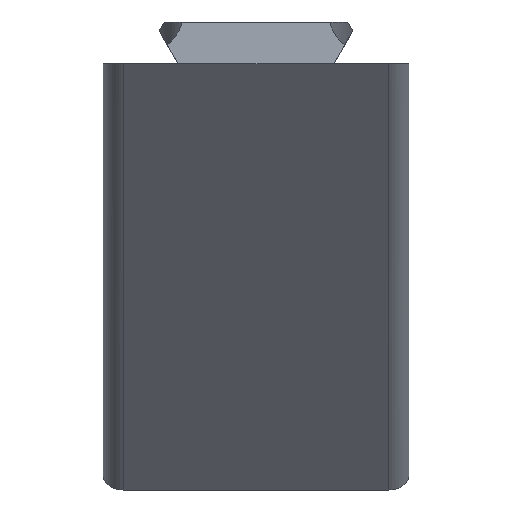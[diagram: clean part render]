
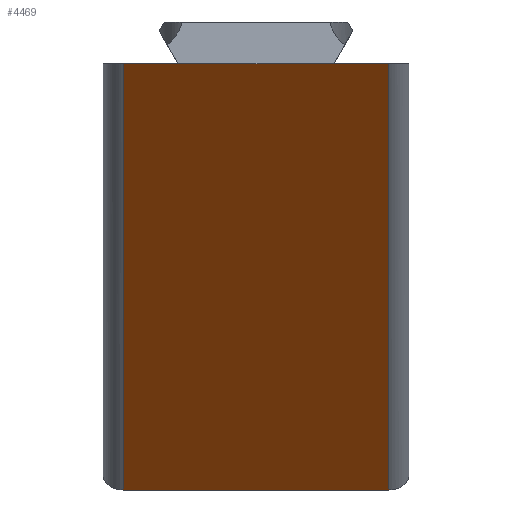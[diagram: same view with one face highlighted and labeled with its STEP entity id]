
A CAD part, left-side view. The second image highlights one B-rep face of the part: STEP entity #4469.
In plain terms, the highlighted planar face has unit normal (-0.719, 0, -0.695).
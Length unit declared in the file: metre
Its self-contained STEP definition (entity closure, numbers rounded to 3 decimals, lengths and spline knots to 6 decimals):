
#514=ORIENTED_EDGE('',*,*,#1638,.T.);
#515=ORIENTED_EDGE('',*,*,#1813,.T.);
#516=ORIENTED_EDGE('',*,*,#1592,.F.);
#517=ORIENTED_EDGE('',*,*,#1814,.T.);
#518=ORIENTED_EDGE('',*,*,#1654,.T.);
#519=ORIENTED_EDGE('',*,*,#1808,.T.);
#1592=EDGE_CURVE('',#2257,#2258,#2700,.T.);
#1638=EDGE_CURVE('',#2304,#2303,#2723,.T.);
#1654=EDGE_CURVE('',#2320,#2319,#2733,.T.);
#1808=EDGE_CURVE('',#2319,#2304,#2845,.T.);
#1813=EDGE_CURVE('',#2303,#2258,#2846,.T.);
#1814=EDGE_CURVE('',#2257,#2320,#2847,.F.);
#2257=VERTEX_POINT('',#6222);
#2258=VERTEX_POINT('',#6224);
#2303=VERTEX_POINT('',#6318);
#2304=VERTEX_POINT('',#6320);
#2319=VERTEX_POINT('',#6350);
#2320=VERTEX_POINT('',#6352);
#2700=LINE('',#6223,#3201);
#2723=LINE('',#6319,#3224);
#2733=LINE('',#6351,#3234);
#2845=LINE('',#6703,#3346);
#2846=LINE('',#6714,#3347);
#2847=LINE('',#6715,#3348);
#3201=VECTOR('',#5058,1.);
#3224=VECTOR('',#5135,1.);
#3234=VECTOR('',#5157,1.);
#3346=VECTOR('',#5331,1.);
#3347=VECTOR('',#5348,1.);
#3348=VECTOR('',#5349,1.);
#3741=EDGE_LOOP('',(#514,#515,#516,#517,#518,#519));
#4030=FACE_BOUND('',#3741,.T.);
#4292=PLANE('',#4787);
#4469=ADVANCED_FACE('',(#4030),#4292,.F.);
#4787=AXIS2_PLACEMENT_3D('',#6713,#5346,#5347);
#5058=DIRECTION('',(0.,1.,0.));
#5135=DIRECTION('',(0.,1.,0.));
#5157=DIRECTION('',(0.,1.,0.));
#5331=DIRECTION('',(0.,1.,0.));
#5346=DIRECTION('',(0.719,0.,0.695));
#5347=DIRECTION('',(0.695,0.,-0.719));
#5348=DIRECTION('',(0.695,0.,-0.719));
#5349=DIRECTION('',(0.695,0.,-0.719));
#6222=CARTESIAN_POINT('',(0.040369,-0.013,-0.041803));
#6223=CARTESIAN_POINT('',(0.040369,-0.015,-0.041803));
#6224=CARTESIAN_POINT('',(0.040369,0.013,-0.041803));
#6318=CARTESIAN_POINT('',(0.,0.013,0.));
#6319=CARTESIAN_POINT('',(0.,-0.015,0.));
#6320=CARTESIAN_POINT('',(0.,0.007695,0.));
#6350=CARTESIAN_POINT('',(0.,-0.007695,0.));
#6351=CARTESIAN_POINT('',(0.,-0.015,0.));
#6352=CARTESIAN_POINT('',(0.,-0.013,0.));
#6703=CARTESIAN_POINT('',(0.,0.,0.));
#6713=CARTESIAN_POINT('',(0.020184,-0.015,-0.020901));
#6714=CARTESIAN_POINT('',(0.020184,0.013,-0.020901));
#6715=CARTESIAN_POINT('',(0.,-0.013,0.));
